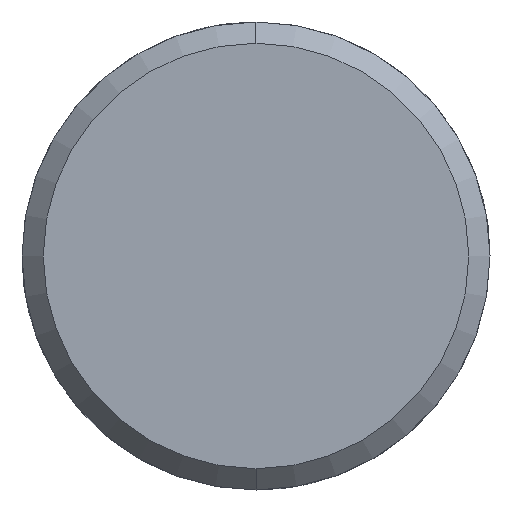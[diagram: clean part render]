
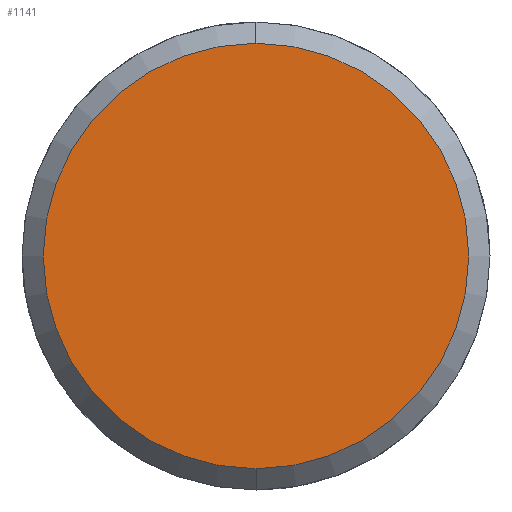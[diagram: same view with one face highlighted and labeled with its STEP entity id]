
A CAD part, left-side view. The second image highlights one B-rep face of the part: STEP entity #1141.
In plain terms, the highlighted planar face has unit normal (-1, 0, 0).
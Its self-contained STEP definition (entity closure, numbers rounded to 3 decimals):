
#1073=CARTESIAN_POINT('Vertex',(-5.,0.,-10.)) ;
#1076=CARTESIAN_POINT('Axis2P3D Location',(-5.,0.,0.)) ;
#1080=CARTESIAN_POINT('Vertex',(-5.,10.,0.)) ;
#1083=CARTESIAN_POINT('Axis2P3D Location',(-5.,0.,0.)) ;
#1087=CARTESIAN_POINT('Vertex',(-5.,0.,10.)) ;
#1109=CARTESIAN_POINT('Axis2P3D Location',(-5.,0.,0.)) ;
#1113=CARTESIAN_POINT('Vertex',(-5.,-10.,0.)) ;
#1116=CARTESIAN_POINT('Axis2P3D Location',(-5.,0.,0.)) ;
#1130=CARTESIAN_POINT('Axis2P3D Location',(-5.,0.,0.)) ;
#1077=DIRECTION('Axis2P3D Direction',(1.,0.,-0.)) ;
#1084=DIRECTION('Axis2P3D Direction',(1.,0.,-0.)) ;
#1110=DIRECTION('Axis2P3D Direction',(1.,0.,-0.)) ;
#1117=DIRECTION('Axis2P3D Direction',(1.,0.,-0.)) ;
#1131=DIRECTION('Axis2P3D Direction',(1.,0.,-0.)) ;
#1132=DIRECTION('Axis2P3D XDirection',(-0.,0.,-1.)) ;
#1078=AXIS2_PLACEMENT_3D('Circle Axis2P3D',#1076,#1077,$) ;
#1085=AXIS2_PLACEMENT_3D('Circle Axis2P3D',#1083,#1084,$) ;
#1111=AXIS2_PLACEMENT_3D('Circle Axis2P3D',#1109,#1110,$) ;
#1118=AXIS2_PLACEMENT_3D('Circle Axis2P3D',#1116,#1117,$) ;
#1133=AXIS2_PLACEMENT_3D('Plane Axis2P3D',#1130,#1131,#1132) ;
#1136=ORIENTED_EDGE('',*,*,#1082,.F.) ;
#1137=ORIENTED_EDGE('',*,*,#1120,.F.) ;
#1138=ORIENTED_EDGE('',*,*,#1115,.F.) ;
#1139=ORIENTED_EDGE('',*,*,#1089,.F.) ;
#1141=ADVANCED_FACE('351-12X22X70',(#1140),#1134,.F.) ;
#1079=CIRCLE('generated circle',#1078,10.) ;
#1086=CIRCLE('generated circle',#1085,10.) ;
#1112=CIRCLE('generated circle',#1111,10.) ;
#1119=CIRCLE('generated circle',#1118,10.) ;
#1082=EDGE_CURVE('',#1074,#1081,#1079,.T.) ;
#1089=EDGE_CURVE('',#1081,#1088,#1086,.T.) ;
#1115=EDGE_CURVE('',#1088,#1114,#1112,.T.) ;
#1120=EDGE_CURVE('',#1114,#1074,#1119,.T.) ;
#1135=EDGE_LOOP('',(#1136,#1137,#1138,#1139)) ;
#1140=FACE_OUTER_BOUND('',#1135,.T.) ;
#1134=PLANE('Plane',#1133) ;
#1074=VERTEX_POINT('',#1073) ;
#1081=VERTEX_POINT('',#1080) ;
#1088=VERTEX_POINT('',#1087) ;
#1114=VERTEX_POINT('',#1113) ;
